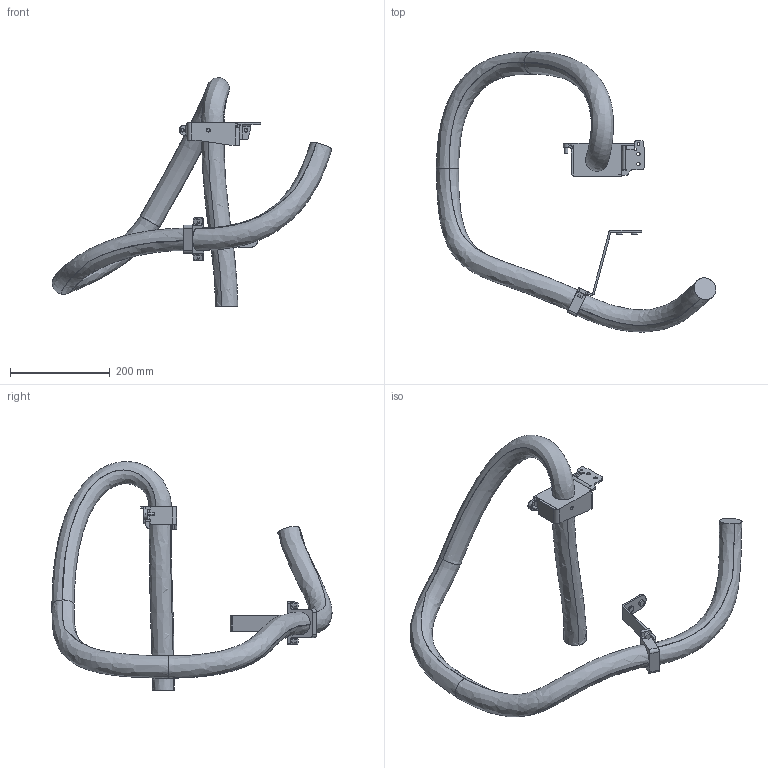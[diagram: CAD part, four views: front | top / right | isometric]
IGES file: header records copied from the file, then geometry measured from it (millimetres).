
Start section: SolidWorks IGES file using analytic representation for surfaces
Global section: file name: C:\Users\SEALDUN\OneDrive - ABB\Documents\R&D Robotics\Work Items\WI 632927\IGES\IRB5710-LID-MH_90kg-230_OC_02_IGES_J\IRB5710-LID-MH_90kg-230_OC_00_LINK01_CABLE.igs; native system: SolidWorks 2024; preprocessor: SolidWorks 2024; author: SEALDUN; date: 250707.154016; units: millimetre
Bounding box: 558.94 x 560.37 x 457.37 mm (x, y, z)
Surface area: 341659.9 mm2 (no closed solid volume)
Topology: 0 solids, 0 shells, 235 faces, 3256 edges, 3226 vertices
Faces by surface type: revolution 121, bspline 114
